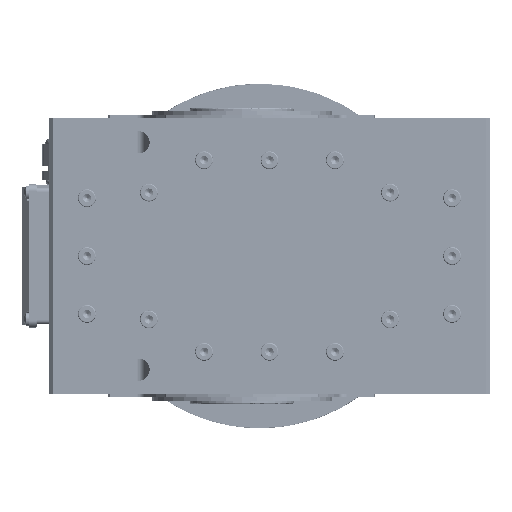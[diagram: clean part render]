
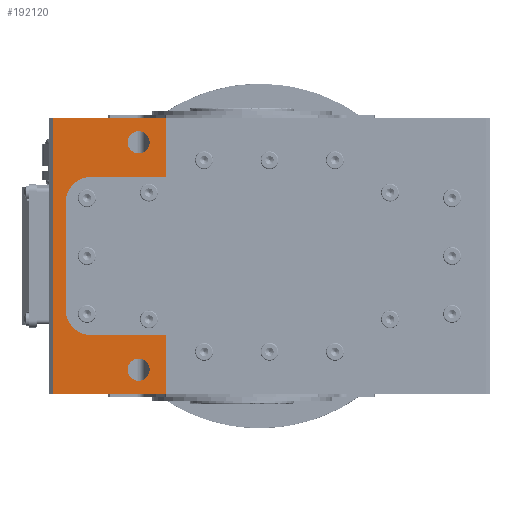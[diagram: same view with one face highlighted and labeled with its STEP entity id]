
A CAD part, left-side view. The second image highlights one B-rep face of the part: STEP entity #192120.
In plain terms, the highlighted planar face has unit normal (-1, 0, 0).
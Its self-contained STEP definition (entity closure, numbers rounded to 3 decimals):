
#19739 = VERTEX_POINT ( 'NONE', #161106 ) ;
#20179 = VERTEX_POINT ( 'NONE', #280743 ) ;
#40501 = VERTEX_POINT ( 'NONE', #176846 ) ;
#40548 = VERTEX_POINT ( 'NONE', #176903 ) ;
#40558 = VERTEX_POINT ( 'NONE', #176882 ) ;
#40647 = VERTEX_POINT ( 'NONE', #177089 ) ;
#40673 = VERTEX_POINT ( 'NONE', #177157 ) ;
#40712 = VERTEX_POINT ( 'NONE', #177110 ) ;
#40753 = VERTEX_POINT ( 'NONE', #177115 ) ;
#40790 = VERTEX_POINT ( 'NONE', #177334 ) ;
#40801 = VERTEX_POINT ( 'NONE', #177368 ) ;
#41054 = VERTEX_POINT ( 'NONE', #177513 ) ;
#52422 = CARTESIAN_POINT ( 'NONE',  ( -112., 55., -100. ) ) ;
#52711 = CARTESIAN_POINT ( 'NONE',  ( -112., 137., -100. ) ) ;
#58562 = VERTEX_POINT ( 'NONE', #52422 ) ;
#58766 = VERTEX_POINT ( 'NONE', #52711 ) ;
#64658 = DIRECTION ( 'NONE',  ( 0., 0., -1. ) ) ;
#64684 = DIRECTION ( 'NONE',  ( 0., 0., 1. ) ) ;
#64722 = CARTESIAN_POINT ( 'NONE',  ( -112., 140., -100. ) ) ;
#64727 = DIRECTION ( 'NONE',  ( 0., -1., 0. ) ) ;
#64751 = CARTESIAN_POINT ( 'NONE',  ( -112., 137., -100. ) ) ;
#64758 = CARTESIAN_POINT ( 'NONE',  ( -112., 55., -100. ) ) ;
#82831 = EDGE_LOOP ( 'NONE', ( #238839, #238494 ) ) ;
#82832 = EDGE_LOOP ( 'NONE', ( #238569, #238942 ) ) ;
#82840 = EDGE_LOOP ( 'NONE', ( #238652, #238479, #238457, #238920, #238623, #238461, #238504, #234642, #238901, #238415 ) ) ;
#99043 = AXIS2_PLACEMENT_3D ( 'NONE', #213037, #213078, #213205 ) ;
#99060 = AXIS2_PLACEMENT_3D ( 'NONE', #213011, #212851, #213221 ) ;
#99145 = AXIS2_PLACEMENT_3D ( 'NONE', #211452, #211266, #211226 ) ;
#99184 = AXIS2_PLACEMENT_3D ( 'NONE', #212258, #212384, #212221 ) ;
#104768 = EDGE_CURVE ( 'NONE', #40501, #58766, #263783, .T. ) ;
#104770 = EDGE_CURVE ( 'NONE', #58766, #58562, #263753, .T. ) ;
#104786 = EDGE_CURVE ( 'NONE', #58562, #40753, #263824, .T. ) ;
#112820 = AXIS2_PLACEMENT_3D ( 'NONE', #157541, #157543, #157561 ) ;
#114034 = AXIS2_PLACEMENT_3D ( 'NONE', #127095, #127110, #127100 ) ;
#116275 = AXIS2_PLACEMENT_3D ( 'NONE', #199323, #199303, #199255 ) ;
#127095 = CARTESIAN_POINT ( 'NONE',  ( -112., 75., -82.5 ) ) ;
#127100 = DIRECTION ( 'NONE',  ( 0., 0., 1. ) ) ;
#127110 = DIRECTION ( 'NONE',  ( 1., 0., 0. ) ) ;
#157541 = CARTESIAN_POINT ( 'NONE',  ( -112., 75., 82.5 ) ) ;
#157543 = DIRECTION ( 'NONE',  ( 1., 0., 0. ) ) ;
#157561 = DIRECTION ( 'NONE',  ( 0., 0., 1. ) ) ;
#161106 = CARTESIAN_POINT ( 'NONE',  ( -112., 75., -74.5 ) ) ;
#176846 = CARTESIAN_POINT ( 'NONE',  ( -112., 137., 100. ) ) ;
#176882 = CARTESIAN_POINT ( 'NONE',  ( -112., 109., 57.5 ) ) ;
#176903 = CARTESIAN_POINT ( 'NONE',  ( -112., 55., 57.5 ) ) ;
#177089 = CARTESIAN_POINT ( 'NONE',  ( -112., 75., 74.5 ) ) ;
#177110 = CARTESIAN_POINT ( 'NONE',  ( -112., 55., 100. ) ) ;
#177115 = CARTESIAN_POINT ( 'NONE',  ( -112., 55., -57.5 ) ) ;
#177157 = CARTESIAN_POINT ( 'NONE',  ( -112., 109., -57.5 ) ) ;
#177334 = CARTESIAN_POINT ( 'NONE',  ( -112., 128., -38.5 ) ) ;
#177368 = CARTESIAN_POINT ( 'NONE',  ( -112., 128., 38.5 ) ) ;
#177513 = CARTESIAN_POINT ( 'NONE',  ( -112., 75., 90.5 ) ) ;
#190672 = EDGE_CURVE ( 'NONE', #41054, #40647, #229154, .T. ) ;
#191138 = EDGE_CURVE ( 'NONE', #19739, #20179, #230773, .T. ) ;
#192120 = ADVANCED_FACE ( 'NONE', ( #247438, #247263, #247311 ), #199346, .T. ) ;
#199255 = DIRECTION ( 'NONE',  ( 0., 0., 1. ) ) ;
#199303 = DIRECTION ( 'NONE',  ( -1., 0., 0. ) ) ;
#199323 = CARTESIAN_POINT ( 'NONE',  ( -112., 140., -100. ) ) ;
#199346 = PLANE ( 'NONE',  #116275 ) ;
#200261 = CIRCLE ( 'NONE', #99145, 8. ) ;
#200416 = LINE ( 'NONE', #212090, #200605 ) ;
#200463 = CIRCLE ( 'NONE', #99184, 19. ) ;
#200605 = VECTOR ( 'NONE', #211922, 1000. ) ;
#200841 = VECTOR ( 'NONE', #212759, 1000. ) ;
#200859 = LINE ( 'NONE', #212661, #200841 ) ;
#200942 = CIRCLE ( 'NONE', #99060, 19. ) ;
#200966 = CIRCLE ( 'NONE', #99043, 8. ) ;
#201019 = VECTOR ( 'NONE', #212947, 1000. ) ;
#201099 = LINE ( 'NONE', #212945, #201146 ) ;
#201108 = LINE ( 'NONE', #212903, #201019 ) ;
#201146 = VECTOR ( 'NONE', #212962, 1000. ) ;
#211226 = DIRECTION ( 'NONE',  ( 0., 0., 1. ) ) ;
#211266 = DIRECTION ( 'NONE',  ( 1., 0., 0. ) ) ;
#211452 = CARTESIAN_POINT ( 'NONE',  ( -112., 75., 82.5 ) ) ;
#211922 = DIRECTION ( 'NONE',  ( 0., 0., 1. ) ) ;
#212090 = CARTESIAN_POINT ( 'NONE',  ( -112., 128., -100. ) ) ;
#212221 = DIRECTION ( 'NONE',  ( 0., 0., 1. ) ) ;
#212258 = CARTESIAN_POINT ( 'NONE',  ( -112., 109., 38.5 ) ) ;
#212384 = DIRECTION ( 'NONE',  ( 1., 0., 0. ) ) ;
#212661 = CARTESIAN_POINT ( 'NONE',  ( -112., 55., -100. ) ) ;
#212759 = DIRECTION ( 'NONE',  ( 0., 0., 1. ) ) ;
#212851 = DIRECTION ( 'NONE',  ( 1., 0., 0. ) ) ;
#212903 = CARTESIAN_POINT ( 'NONE',  ( -112., 140., -57.5 ) ) ;
#212945 = CARTESIAN_POINT ( 'NONE',  ( -112., 140., 57.5 ) ) ;
#212947 = DIRECTION ( 'NONE',  ( 0., 1., 0. ) ) ;
#212962 = DIRECTION ( 'NONE',  ( 0., -1., 0. ) ) ;
#213011 = CARTESIAN_POINT ( 'NONE',  ( -112., 109., -38.5 ) ) ;
#213037 = CARTESIAN_POINT ( 'NONE',  ( -112., 75., -82.5 ) ) ;
#213078 = DIRECTION ( 'NONE',  ( 1., 0., 0. ) ) ;
#213205 = DIRECTION ( 'NONE',  ( 0., 0., 1. ) ) ;
#213221 = DIRECTION ( 'NONE',  ( 0., 0., 1. ) ) ;
#218284 = LINE ( 'NONE', #221275, #218287 ) ;
#218287 = VECTOR ( 'NONE', #221367, 1000. ) ;
#221275 = CARTESIAN_POINT ( 'NONE',  ( -112., 140., 100. ) ) ;
#221367 = DIRECTION ( 'NONE',  ( 0., 1., 0. ) ) ;
#229154 = CIRCLE ( 'NONE', #112820, 8. ) ;
#230773 = CIRCLE ( 'NONE', #114034, 8. ) ;
#234642 = ORIENTED_EDGE ( 'NONE', *, *, #104786, .T. ) ;
#238415 = ORIENTED_EDGE ( 'NONE', *, *, #294227, .T. ) ;
#238457 = ORIENTED_EDGE ( 'NONE', *, *, #294216, .T. ) ;
#238461 = ORIENTED_EDGE ( 'NONE', *, *, #104768, .T. ) ;
#238479 = ORIENTED_EDGE ( 'NONE', *, *, #294124, .T. ) ;
#238494 = ORIENTED_EDGE ( 'NONE', *, *, #294035, .T. ) ;
#238504 = ORIENTED_EDGE ( 'NONE', *, *, #104770, .T. ) ;
#238569 = ORIENTED_EDGE ( 'NONE', *, *, #191138, .T. ) ;
#238623 = ORIENTED_EDGE ( 'NONE', *, *, #294601, .T. ) ;
#238652 = ORIENTED_EDGE ( 'NONE', *, *, #294098, .T. ) ;
#238839 = ORIENTED_EDGE ( 'NONE', *, *, #190672, .T. ) ;
#238901 = ORIENTED_EDGE ( 'NONE', *, *, #294233, .T. ) ;
#238920 = ORIENTED_EDGE ( 'NONE', *, *, #294177, .T. ) ;
#238942 = ORIENTED_EDGE ( 'NONE', *, *, #294253, .T. ) ;
#247263 = FACE_BOUND ( 'NONE', #82831, .T. ) ;
#247311 = FACE_OUTER_BOUND ( 'NONE', #82840, .T. ) ;
#247438 = FACE_BOUND ( 'NONE', #82832, .T. ) ;
#263753 = LINE ( 'NONE', #64722, #263756 ) ;
#263756 = VECTOR ( 'NONE', #64727, 1000. ) ;
#263766 = VECTOR ( 'NONE', #64684, 1000. ) ;
#263776 = VECTOR ( 'NONE', #64658, 1000. ) ;
#263783 = LINE ( 'NONE', #64751, #263776 ) ;
#263824 = LINE ( 'NONE', #64758, #263766 ) ;
#280743 = CARTESIAN_POINT ( 'NONE',  ( -112., 75., -90.5 ) ) ;
#294035 = EDGE_CURVE ( 'NONE', #40647, #41054, #200261, .T. ) ;
#294098 = EDGE_CURVE ( 'NONE', #40790, #40801, #200416, .T. ) ;
#294124 = EDGE_CURVE ( 'NONE', #40801, #40558, #200463, .T. ) ;
#294177 = EDGE_CURVE ( 'NONE', #40548, #40712, #200859, .T. ) ;
#294216 = EDGE_CURVE ( 'NONE', #40558, #40548, #201099, .T. ) ;
#294227 = EDGE_CURVE ( 'NONE', #40673, #40790, #200942, .T. ) ;
#294233 = EDGE_CURVE ( 'NONE', #40753, #40673, #201108, .T. ) ;
#294253 = EDGE_CURVE ( 'NONE', #20179, #19739, #200966, .T. ) ;
#294601 = EDGE_CURVE ( 'NONE', #40712, #40501, #218284, .T. ) ;
